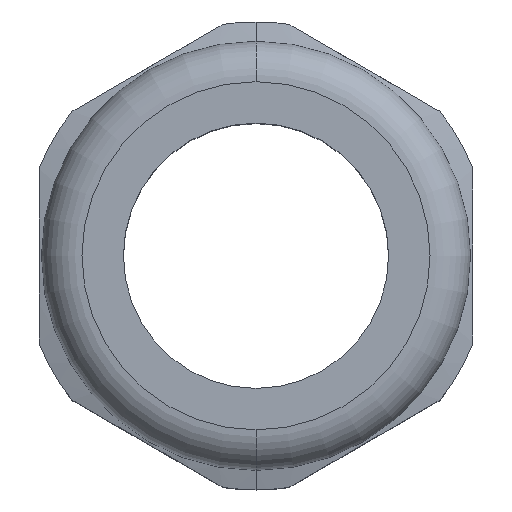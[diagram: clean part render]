
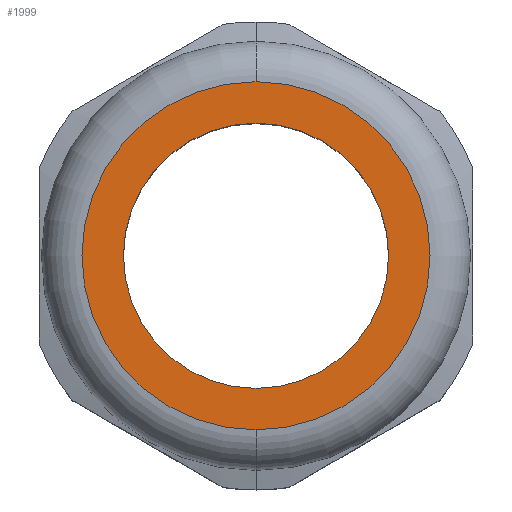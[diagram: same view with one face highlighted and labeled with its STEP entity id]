
A CAD part, top view. The second image highlights one B-rep face of the part: STEP entity #1999.
In plain terms, the highlighted planar face has unit normal (0, 0, 1).
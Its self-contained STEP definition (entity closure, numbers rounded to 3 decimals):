
#967 = DIRECTION ( 'NONE',  ( 0., 1., 0. ) ) ;
#968 = DIRECTION ( 'NONE',  ( 0., 0., -1. ) ) ;
#969 = CARTESIAN_POINT ( 'NONE',  ( 0., 0., 60. ) ) ;
#971 = CIRCLE ( 'NONE', #975, 36.1 ) ;
#975 = AXIS2_PLACEMENT_3D ( 'NONE', #969, #968, #967 ) ;
#995 = DIRECTION ( 'NONE',  ( 0., 1., 0. ) ) ;
#996 = DIRECTION ( 'NONE',  ( 0., 0., -1. ) ) ;
#1002 = DIRECTION ( 'NONE',  ( 0., -1., 0. ) ) ;
#1003 = DIRECTION ( 'NONE',  ( 0., 0., 1. ) ) ;
#1018 = CARTESIAN_POINT ( 'NONE',  ( 0., 36.1, 60. ) ) ;
#1019 = AXIS2_PLACEMENT_3D ( 'NONE', #1018, #1003, #1002 ) ;
#1034 = FACE_OUTER_BOUND ( 'NONE', #2003, .T. ) ;
#1035 = FACE_BOUND ( 'NONE', #2008, .T. ) ;
#1052 = CIRCLE ( 'NONE', #1088, 27.5 ) ;
#1063 = PLANE ( 'NONE',  #1019 ) ;
#1075 = CARTESIAN_POINT ( 'NONE',  ( 0., 0., 60. ) ) ;
#1088 = AXIS2_PLACEMENT_3D ( 'NONE', #1075, #996, #995 ) ;
#1091 = CARTESIAN_POINT ( 'NONE',  ( 0., -27.5, 60. ) ) ;
#1146 = CARTESIAN_POINT ( 'NONE',  ( 0., 27.5, 60. ) ) ;
#1167 = CARTESIAN_POINT ( 'NONE',  ( 0., -36.1, 60. ) ) ;
#1169 = CARTESIAN_POINT ( 'NONE',  ( 0., 0., 60. ) ) ;
#1175 = DIRECTION ( 'NONE',  ( 0., 0., -1. ) ) ;
#1176 = CARTESIAN_POINT ( 'NONE',  ( 0., 0., 60. ) ) ;
#1177 = AXIS2_PLACEMENT_3D ( 'NONE', #1176, #1175, #1208 ) ;
#1183 = DIRECTION ( 'NONE',  ( 0., 0., -1. ) ) ;
#1185 = AXIS2_PLACEMENT_3D ( 'NONE', #1169, #1183, #1198 ) ;
#1186 = CIRCLE ( 'NONE', #1185, 36.1 ) ;
#1192 = CIRCLE ( 'NONE', #1177, 27.5 ) ;
#1197 = CARTESIAN_POINT ( 'NONE',  ( 0., 36.1, 60. ) ) ;
#1198 = DIRECTION ( 'NONE',  ( 0., 1., 0. ) ) ;
#1208 = DIRECTION ( 'NONE',  ( 0., 1., 0. ) ) ;
#1977 = EDGE_CURVE ( 'NONE', #2462, #2467, #971, .T. ) ;
#1995 = ORIENTED_EDGE ( 'NONE', *, *, #2480, .T. ) ;
#1996 = EDGE_CURVE ( 'NONE', #2442, #2452, #1052, .T. ) ;
#1999 = ADVANCED_FACE ( 'NONE', ( #1035, #1034 ), #1063, .T. ) ;
#2000 = ORIENTED_EDGE ( 'NONE', *, *, #1996, .T. ) ;
#2003 = EDGE_LOOP ( 'NONE', ( #2010, #2011 ) ) ;
#2008 = EDGE_LOOP ( 'NONE', ( #2000, #1995 ) ) ;
#2010 = ORIENTED_EDGE ( 'NONE', *, *, #2466, .F. ) ;
#2011 = ORIENTED_EDGE ( 'NONE', *, *, #1977, .F. ) ;
#2442 = VERTEX_POINT ( 'NONE', #1146 ) ;
#2452 = VERTEX_POINT ( 'NONE', #1091 ) ;
#2462 = VERTEX_POINT ( 'NONE', #1167 ) ;
#2466 = EDGE_CURVE ( 'NONE', #2467, #2462, #1186, .T. ) ;
#2467 = VERTEX_POINT ( 'NONE', #1197 ) ;
#2480 = EDGE_CURVE ( 'NONE', #2452, #2442, #1192, .T. ) ;
